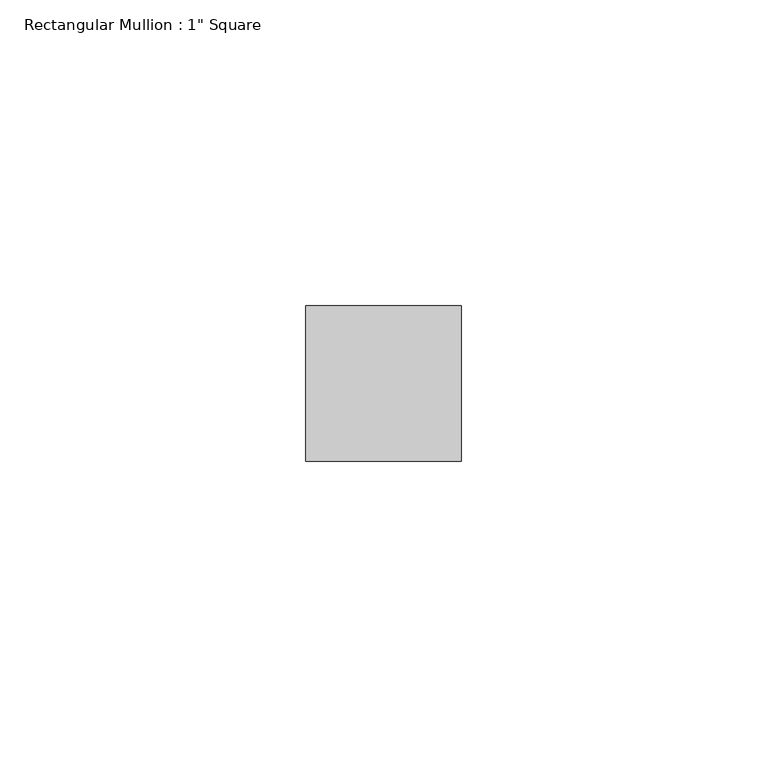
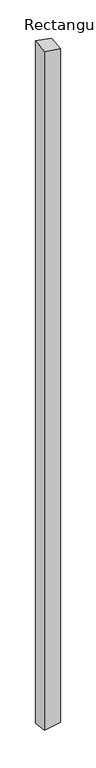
"""IFC4 building model written with IfcOpenShell, lengths in millimetres: member geometry."""

from ifc_helpers import new_model, si_unit, origin, place, context, project, spatial, faceted_brep, source, transform, mapped, element, save


def member_fbb779ea(model_context):
    return source(origin(), model_context, "Body", "Brep", [
        faceted_brep([(-12.7, 12.7, 3.3713887), (12.7, 12.7, -0.7970304), (12.7, 12.7, -1154.9748096), (-12.7, 12.7, -1160.2162123), (-12.7, -12.7, 0.7970304), (-12.7, -12.7, -1156.9791942), (12.7, -12.7, -3.3713887), (12.7, -12.7, -1151.7377915)], [[[0, 1, 2, 3]], [[4, 0, 3, 5]], [[6, 4, 5, 7]], [[1, 6, 7, 2]], [[1, 0, 4, 6]], [[2, 7, 5, 3]]]),
    ])


if __name__ == "__main__":
    model = new_model("IFC4")
    model_context = context("Model", 3, world=origin())
    ifc_project = project(units=[si_unit("LENGTHUNIT", "METRE", prefix="MILLI")], contexts=[model_context])
    site = spatial("IfcSite", under=ifc_project)
    building = spatial("IfcBuilding", under=site)
    placement = place(None, origin())
    member_shape = member_fbb779ea(model_context)
    element("IfcMember", 1, ObjectType="Rectangular Mullion : 1\" Square", at=placement, inside=building, context=model_context, shape_type="MappedRepresentation", body=[
        mapped(member_shape, transform((0.0, 0.0, 0.0), x_axis=(1.0, 0.0, 0.0), y_axis=(0.0, 1.0, 0.0), z_axis=(0.0, 0.0, 1.0))),
    ])
    save(model, "model.ifc")
